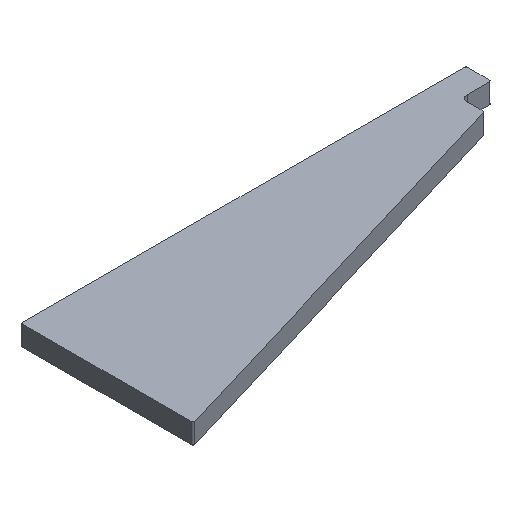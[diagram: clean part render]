
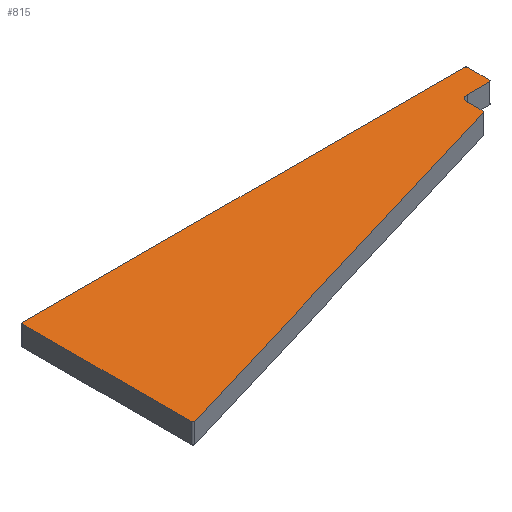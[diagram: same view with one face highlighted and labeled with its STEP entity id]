
A CAD part, isometric view. The second image highlights one B-rep face of the part: STEP entity #815.
In plain terms, the highlighted planar face has unit normal (0, 0, 1).
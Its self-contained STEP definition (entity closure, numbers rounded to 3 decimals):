
#395=CIRCLE('',#779,12.5);
#397=CIRCLE('',#782,3.);
#398=CIRCLE('',#783,3.);
#399=CIRCLE('',#784,3.);
#400=CIRCLE('',#785,3.);
#401=CIRCLE('',#786,3.);
#421=ORIENTED_EDGE('',*,*,#560,.F.);
#422=ORIENTED_EDGE('',*,*,#564,.F.);
#423=ORIENTED_EDGE('',*,*,#565,.T.);
#424=ORIENTED_EDGE('',*,*,#566,.F.);
#425=ORIENTED_EDGE('',*,*,#567,.F.);
#426=ORIENTED_EDGE('',*,*,#568,.F.);
#427=ORIENTED_EDGE('',*,*,#569,.F.);
#428=ORIENTED_EDGE('',*,*,#570,.F.);
#429=ORIENTED_EDGE('',*,*,#571,.T.);
#430=ORIENTED_EDGE('',*,*,#572,.F.);
#431=ORIENTED_EDGE('',*,*,#573,.F.);
#432=ORIENTED_EDGE('',*,*,#561,.F.);
#488=VECTOR('',#626,1.);
#490=VECTOR('',#638,1.);
#491=VECTOR('',#641,1.);
#492=VECTOR('',#644,1.);
#493=VECTOR('',#647,1.);
#494=VECTOR('',#650,1.);
#512=LINE('',#709,#488);
#514=LINE('',#720,#490);
#515=LINE('',#724,#491);
#516=LINE('',#728,#492);
#517=LINE('',#732,#493);
#518=LINE('',#735,#494);
#534=VERTEX_POINT('',#703);
#536=VERTEX_POINT('',#707);
#537=VERTEX_POINT('',#711);
#539=VERTEX_POINT('',#717);
#540=VERTEX_POINT('',#719);
#541=VERTEX_POINT('',#721);
#542=VERTEX_POINT('',#723);
#543=VERTEX_POINT('',#725);
#544=VERTEX_POINT('',#727);
#545=VERTEX_POINT('',#729);
#546=VERTEX_POINT('',#731);
#547=VERTEX_POINT('',#733);
#560=EDGE_CURVE('',#536,#534,#512,.T.);
#561=EDGE_CURVE('',#534,#537,#395,.T.);
#564=EDGE_CURVE('',#539,#536,#397,.T.);
#565=EDGE_CURVE('',#539,#540,#514,.T.);
#566=EDGE_CURVE('',#541,#540,#398,.T.);
#567=EDGE_CURVE('',#542,#541,#515,.T.);
#568=EDGE_CURVE('',#543,#542,#399,.T.);
#569=EDGE_CURVE('',#544,#543,#516,.T.);
#570=EDGE_CURVE('',#545,#544,#400,.T.);
#571=EDGE_CURVE('',#545,#546,#517,.T.);
#572=EDGE_CURVE('',#547,#546,#401,.T.);
#573=EDGE_CURVE('',#537,#547,#518,.T.);
#595=EDGE_LOOP('',(#421,#422,#423,#424,#425,#426,#427,#428,#429,#430,#431,
#432));
#609=FACE_BOUND('',#595,.T.);
#626=DIRECTION('',(-44.5,0.,0.));
#629=DIRECTION('',(0.,0.,1.));
#630=DIRECTION('',(-12.5,0.,0.));
#634=DIRECTION('',(0.,0.,1.));
#635=DIRECTION('',(0.,-1.,0.));
#636=DIRECTION('',(0.,0.,-1.));
#637=DIRECTION('',(0.,-3.,0.));
#638=DIRECTION('',(0.,44.,0.));
#639=DIRECTION('',(0.,0.,-1.));
#640=DIRECTION('',(0.,-3.,0.));
#641=DIRECTION('',(884.,0.,0.));
#642=DIRECTION('',(0.,0.,-1.));
#643=DIRECTION('',(0.,-3.,0.));
#644=DIRECTION('',(0.,337.812,0.));
#645=DIRECTION('',(0.,0.,-1.));
#646=DIRECTION('',(0.,-3.,0.));
#647=DIRECTION('',(824.,246.298,0.));
#648=DIRECTION('',(0.,0.,-1.));
#649=DIRECTION('',(0.,-3.,0.));
#650=DIRECTION('',(0.,-32.014,0.));
#703=CARTESIAN_POINT('',(5817.004,13871.36,40.));
#707=CARTESIAN_POINT('',(5861.504,13871.36,40.));
#709=CARTESIAN_POINT('',(5861.504,13871.36,40.));
#711=CARTESIAN_POINT('',(5804.504,13858.86,40.));
#712=CARTESIAN_POINT('',(5817.004,13858.86,40.));
#716=CARTESIAN_POINT('',(0.,0.,40.));
#717=CARTESIAN_POINT('',(5864.504,13874.36,40.));
#718=CARTESIAN_POINT('',(5861.504,13874.36,40.));
#719=CARTESIAN_POINT('',(5864.504,13918.36,40.));
#720=CARTESIAN_POINT('',(5864.504,13874.36,40.));
#721=CARTESIAN_POINT('',(5861.504,13921.36,40.));
#722=CARTESIAN_POINT('',(5861.504,13918.36,40.));
#723=CARTESIAN_POINT('',(4977.504,13921.36,40.));
#724=CARTESIAN_POINT('',(4977.504,13921.36,40.));
#725=CARTESIAN_POINT('',(4974.504,13918.36,40.));
#726=CARTESIAN_POINT('',(4977.504,13918.36,40.));
#727=CARTESIAN_POINT('',(4974.504,13580.548,40.));
#728=CARTESIAN_POINT('',(4974.504,13580.548,40.));
#729=CARTESIAN_POINT('',(4978.363,13577.674,40.));
#730=CARTESIAN_POINT('',(4977.504,13580.548,40.));
#731=CARTESIAN_POINT('',(5802.363,13823.971,40.));
#732=CARTESIAN_POINT('',(4978.363,13577.674,40.));
#733=CARTESIAN_POINT('',(5804.504,13826.846,40.));
#734=CARTESIAN_POINT('',(5801.504,13826.846,40.));
#735=CARTESIAN_POINT('',(5804.504,13858.86,40.));
#779=AXIS2_PLACEMENT_3D('',#712,#629,#630);
#781=AXIS2_PLACEMENT_3D('',#716,#634,#635);
#782=AXIS2_PLACEMENT_3D('',#718,#636,#637);
#783=AXIS2_PLACEMENT_3D('',#722,#639,#640);
#784=AXIS2_PLACEMENT_3D('',#726,#642,#643);
#785=AXIS2_PLACEMENT_3D('',#730,#645,#646);
#786=AXIS2_PLACEMENT_3D('',#734,#648,#649);
#806=PLANE('',#781);
#815=ADVANCED_FACE('',(#609),#806,.T.);
